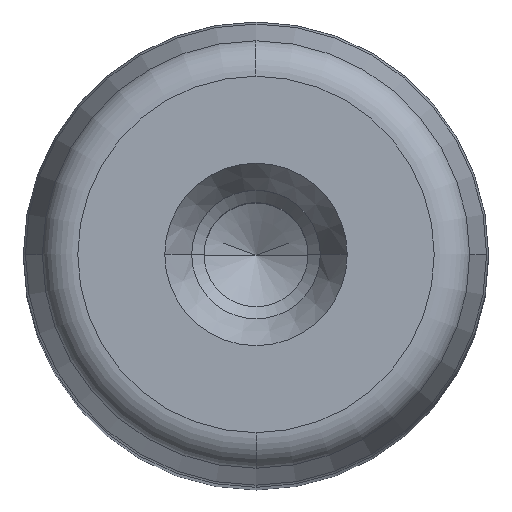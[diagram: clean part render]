
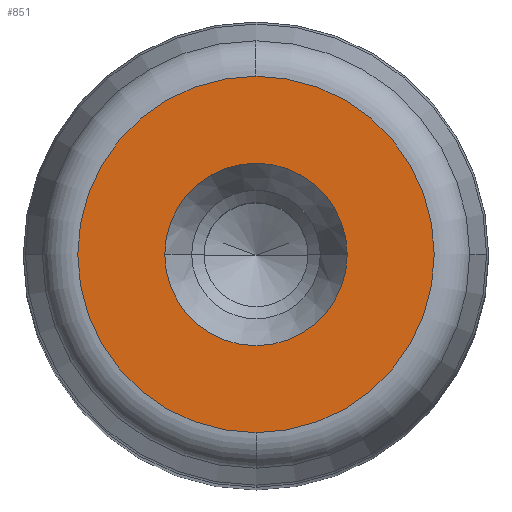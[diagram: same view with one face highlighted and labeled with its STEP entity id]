
A CAD part, top view. The second image highlights one B-rep face of the part: STEP entity #851.
In plain terms, the highlighted planar face has unit normal (0, 0, 1) as drawn and (0, 1, 0) by its records, which use the part's own axes.
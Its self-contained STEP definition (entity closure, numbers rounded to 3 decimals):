
#281=CARTESIAN_POINT('',(7.45,140.0,0.0));
#282=VERTEX_POINT('',#281);
#289=CARTESIAN_POINT('',(-7.45,140.0,0.));
#290=VERTEX_POINT('',#289);
#291=CARTESIAN_POINT('',(0.0,140.0,0.0));
#292=DIRECTION('',(0.0,1.0,0.0));
#293=DIRECTION('',(1.0,0.0,0.0));
#294=AXIS2_PLACEMENT_3D('',#291,#292,#293);
#295=CIRCLE('',#294,7.45);
#296=EDGE_CURVE('',#282,#290,#295,.T.);
#313=CARTESIAN_POINT('',(0.0,140.0,14.554));
#314=VERTEX_POINT('',#313);
#324=CARTESIAN_POINT('',(0.,140.0,-14.554));
#325=VERTEX_POINT('',#324);
#326=CARTESIAN_POINT('',(0.0,140.0,0.0));
#327=DIRECTION('',(0.0,1.0,0.0));
#328=DIRECTION('',(1.0,0.0,0.0));
#329=AXIS2_PLACEMENT_3D('',#326,#327,#328);
#330=CIRCLE('',#329,14.554);
#331=EDGE_CURVE('',#325,#314,#330,.T.);
#812=CARTESIAN_POINT('',(14.554,140.0,0.0));
#813=VERTEX_POINT('',#812);
#814=CARTESIAN_POINT('',(0.0,140.0,0.0));
#815=DIRECTION('',(0.0,1.0,0.0));
#816=DIRECTION('',(1.0,0.0,0.0));
#817=AXIS2_PLACEMENT_3D('',#814,#815,#816);
#818=CIRCLE('',#817,14.554);
#819=EDGE_CURVE('',#813,#325,#818,.T.);
#821=CARTESIAN_POINT('',(0.0,140.0,0.0));
#822=DIRECTION('',(0.0,1.0,0.0));
#823=DIRECTION('',(1.0,0.0,0.0));
#824=AXIS2_PLACEMENT_3D('',#821,#822,#823);
#825=CIRCLE('',#824,14.554);
#826=EDGE_CURVE('',#314,#813,#825,.T.);
#831=CARTESIAN_POINT('',(-16.01,140.0,-16.01));
#832=DIRECTION('',(0.0,1.0,0.0));
#833=DIRECTION('',(0.0,0.0,1.0));
#834=AXIS2_PLACEMENT_3D('',#831,#832,#833);
#835=PLANE('',#834);
#836=ORIENTED_EDGE('',*,*,#819,.T.);
#837=ORIENTED_EDGE('',*,*,#331,.T.);
#838=ORIENTED_EDGE('',*,*,#826,.T.);
#839=EDGE_LOOP('',(#836,#837,#838));
#840=FACE_OUTER_BOUND('',#839,.T.);
#841=ORIENTED_EDGE('',*,*,#296,.F.);
#842=CARTESIAN_POINT('',(0.0,140.0,0.0));
#843=DIRECTION('',(0.0,1.0,0.0));
#844=DIRECTION('',(1.0,0.0,0.0));
#845=AXIS2_PLACEMENT_3D('',#842,#843,#844);
#846=CIRCLE('',#845,7.45);
#847=EDGE_CURVE('',#290,#282,#846,.T.);
#848=ORIENTED_EDGE('',*,*,#847,.F.);
#849=EDGE_LOOP('',(#841,#848));
#850=FACE_BOUND('',#849,.T.);
#851=ADVANCED_FACE('',(#840,#850),#835,.T.);
